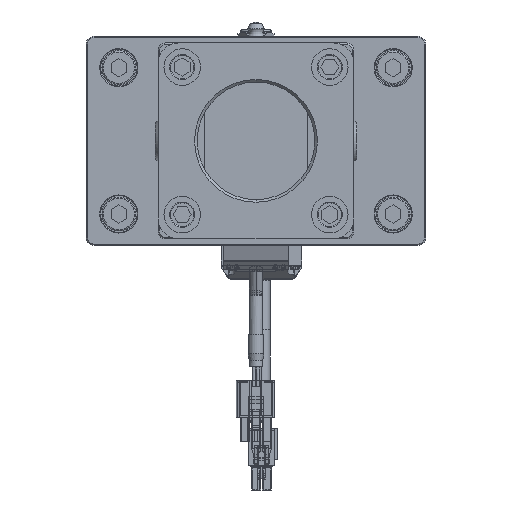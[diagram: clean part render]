
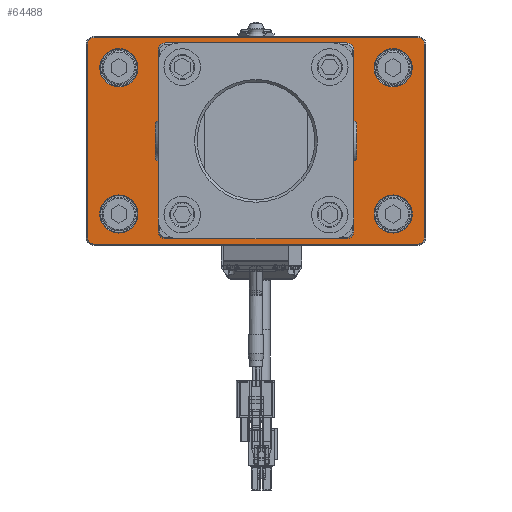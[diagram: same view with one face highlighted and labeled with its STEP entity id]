
A CAD part, front view. The second image highlights one B-rep face of the part: STEP entity #64488.
In plain terms, the highlighted planar face has unit normal (0, -1, 0) as drawn and (0, 1, 0) by its records, which use the part's own axes.
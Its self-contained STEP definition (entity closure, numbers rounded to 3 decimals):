
#62940=CARTESIAN_POINT('',(0.,7.,0.));
#62941=DIRECTION('',(0.,-1.,0.));
#62942=DIRECTION('',(1.,0.,0.));
#62943=AXIS2_PLACEMENT_3D('',#62940,#62941,#62942);
#62945=CARTESIAN_POINT('',(0.,7.,0.));
#62946=DIRECTION('',(0.,-1.,0.));
#62947=DIRECTION('',(-1.,0.,0.));
#62948=AXIS2_PLACEMENT_3D('',#62945,#62946,#62947);
#62950=CARTESIAN_POINT('',(-62.,7.,-37.));
#62951=DIRECTION('',(0.,1.,0.));
#62952=DIRECTION('',(0.,0.,-1.));
#62953=AXIS2_PLACEMENT_3D('',#62950,#62951,#62952);
#62955=DIRECTION('',(-1.,0.,0.));
#62956=VECTOR('',#62955,124.);
#62957=CARTESIAN_POINT('',(62.,7.,
-39.5));
#62958=LINE('',#62957,#62956);
#62959=CARTESIAN_POINT('',(62.,7.,-37.));
#62960=DIRECTION('',(0.,1.,0.));
#62961=DIRECTION('',(1.,0.,0.));
#62962=AXIS2_PLACEMENT_3D('',#62959,#62960,#62961);
#62964=DIRECTION('',(0.,0.,-1.));
#62965=VECTOR('',#62964,74.);
#62966=CARTESIAN_POINT('',(64.5,7.,37.));
#62967=LINE('',#62966,#62965);
#62968=CARTESIAN_POINT('',(62.,7.,37.));
#62969=DIRECTION('',(0.,1.,0.));
#62970=DIRECTION('',(0.,0.,1.));
#62971=AXIS2_PLACEMENT_3D('',#62968,#62969,#62970);
#62973=DIRECTION('',(1.,0.,0.));
#62974=VECTOR('',#62973,124.);
#62975=CARTESIAN_POINT('',(-62.,7.,
39.5));
#62976=LINE('',#62975,#62974);
#62977=CARTESIAN_POINT('',(-62.,7.,37.));
#62978=DIRECTION('',(0.,1.,0.));
#62979=DIRECTION('',(-1.,0.,0.));
#62980=AXIS2_PLACEMENT_3D('',#62977,#62978,#62979);
#62982=DIRECTION('',(0.,0.,1.));
#62983=VECTOR('',#62982,74.);
#62984=CARTESIAN_POINT('',(-64.5,7.,
-37.));
#62985=LINE('',#62984,#62983);
#62986=CARTESIAN_POINT('',(52.5,7.,28.));
#62987=DIRECTION('',(0.,-1.,0.));
#62988=DIRECTION('',(1.,0.,0.));
#62989=AXIS2_PLACEMENT_3D('',#62986,#62987,#62988);
#62991=CARTESIAN_POINT('',(52.5,7.,28.));
#62992=DIRECTION('',(0.,-1.,0.));
#62993=DIRECTION('',(-1.,0.,0.));
#62994=AXIS2_PLACEMENT_3D('',#62991,#62992,#62993);
#62996=CARTESIAN_POINT('',(-52.5,7.,28.));
#62997=DIRECTION('',(0.,-1.,0.));
#62998=DIRECTION('',(1.,0.,0.));
#62999=AXIS2_PLACEMENT_3D('',#62996,#62997,#62998);
#63001=CARTESIAN_POINT('',(-52.5,7.,28.));
#63002=DIRECTION('',(0.,-1.,0.));
#63003=DIRECTION('',(-1.,0.,0.));
#63004=AXIS2_PLACEMENT_3D('',#63001,#63002,#63003);
#63006=CARTESIAN_POINT('',(52.5,7.,-28.));
#63007=DIRECTION('',(0.,-1.,0.));
#63008=DIRECTION('',(1.,0.,0.));
#63009=AXIS2_PLACEMENT_3D('',#63006,#63007,#63008);
#63011=CARTESIAN_POINT('',(52.5,7.,-28.));
#63012=DIRECTION('',(0.,-1.,0.));
#63013=DIRECTION('',(-1.,0.,0.));
#63014=AXIS2_PLACEMENT_3D('',#63011,#63012,#63013);
#63016=CARTESIAN_POINT('',(-52.5,7.,-28.));
#63017=DIRECTION('',(0.,-1.,0.));
#63018=DIRECTION('',(1.,0.,0.));
#63019=AXIS2_PLACEMENT_3D('',#63016,#63017,#63018);
#63021=CARTESIAN_POINT('',(-52.5,7.,-28.));
#63022=DIRECTION('',(0.,-1.,0.));
#63023=DIRECTION('',(-1.,0.,0.));
#63024=AXIS2_PLACEMENT_3D('',#63021,#63022,#63023);
#63026=CARTESIAN_POINT('',(-28.25,7.,-28.25));
#63027=DIRECTION('',(0.,1.,0.));
#63028=DIRECTION('',(1.,0.,0.));
#63029=AXIS2_PLACEMENT_3D('',#63026,#63027,#63028);
#63031=CARTESIAN_POINT('',(-28.25,7.,-28.25));
#63032=DIRECTION('',(0.,1.,0.));
#63033=DIRECTION('',(-1.,0.,0.));
#63034=AXIS2_PLACEMENT_3D('',#63031,#63032,#63033);
#63036=CARTESIAN_POINT('',(-28.25,7.,28.25));
#63037=DIRECTION('',(0.,1.,0.));
#63038=DIRECTION('',(0.,0.,-1.));
#63039=AXIS2_PLACEMENT_3D('',#63036,#63037,#63038);
#63041=CARTESIAN_POINT('',(-28.25,7.,28.25));
#63042=DIRECTION('',(0.,1.,0.));
#63043=DIRECTION('',(0.,0.,1.));
#63044=AXIS2_PLACEMENT_3D('',#63041,#63042,#63043);
#63046=CARTESIAN_POINT('',(28.25,7.,28.25));
#63047=DIRECTION('',(0.,1.,0.));
#63048=DIRECTION('',(-1.,0.,0.));
#63049=AXIS2_PLACEMENT_3D('',#63046,#63047,#63048);
#63051=CARTESIAN_POINT('',(28.25,7.,28.25));
#63052=DIRECTION('',(0.,1.,0.));
#63053=DIRECTION('',(1.,0.,0.));
#63054=AXIS2_PLACEMENT_3D('',#63051,#63052,#63053);
#63056=CARTESIAN_POINT('',(28.25,7.,-28.25));
#63057=DIRECTION('',(0.,1.,0.));
#63058=DIRECTION('',(0.,0.,1.));
#63059=AXIS2_PLACEMENT_3D('',#63056,#63057,#63058);
#63061=CARTESIAN_POINT('',(28.25,7.,-28.25));
#63062=DIRECTION('',(0.,1.,0.));
#63063=DIRECTION('',(0.,0.,-1.));
#63064=AXIS2_PLACEMENT_3D('',#63061,#63062,#63063);
#63972=CARTESIAN_POINT('',(23.,7.,0.));
#63973=CARTESIAN_POINT('',(-23.,7.,0.));
#63974=VERTEX_POINT('',#63972);
#63975=VERTEX_POINT('',#63973);
#64020=CARTESIAN_POINT('',(-62.,7.,-39.5));
#64021=CARTESIAN_POINT('',(-64.5,7.,-37.));
#64022=VERTEX_POINT('',#64020);
#64023=VERTEX_POINT('',#64021);
#64028=CARTESIAN_POINT('',(-64.5,7.,
37.));
#64029=VERTEX_POINT('',#64028);
#64032=CARTESIAN_POINT('',(-62.,7.,39.5));
#64033=VERTEX_POINT('',#64032);
#64036=CARTESIAN_POINT('',(62.,7.,39.5));
#64037=VERTEX_POINT('',#64036);
#64040=CARTESIAN_POINT('',(64.5,7.,37.));
#64041=VERTEX_POINT('',#64040);
#64044=CARTESIAN_POINT('',(64.5,7.,
-37.));
#64045=VERTEX_POINT('',#64044);
#64048=CARTESIAN_POINT('',(62.,7.,-39.5));
#64049=VERTEX_POINT('',#64048);
#64068=CARTESIAN_POINT('',(59.8,7.,28.));
#64069=CARTESIAN_POINT('',(45.2,7.,28.));
#64070=VERTEX_POINT('',#64068);
#64071=VERTEX_POINT('',#64069);
#64092=CARTESIAN_POINT('',(-45.2,7.,28.));
#64093=CARTESIAN_POINT('',(-59.8,7.,28.));
#64094=VERTEX_POINT('',#64092);
#64095=VERTEX_POINT('',#64093);
#64108=CARTESIAN_POINT('',(59.8,7.,-28.));
#64109=CARTESIAN_POINT('',(45.2,7.,-28.));
#64110=VERTEX_POINT('',#64108);
#64111=VERTEX_POINT('',#64109);
#64116=CARTESIAN_POINT('',(-45.2,7.,-28.));
#64117=CARTESIAN_POINT('',(-59.8,7.,-28.));
#64118=VERTEX_POINT('',#64116);
#64119=VERTEX_POINT('',#64117);
#64216=CARTESIAN_POINT('',(-24.25,7.,-28.25));
#64217=CARTESIAN_POINT('',(-32.25,7.,-28.25));
#64218=VERTEX_POINT('',#64216);
#64219=VERTEX_POINT('',#64217);
#64224=CARTESIAN_POINT('',(-28.25,7.,24.25));
#64225=CARTESIAN_POINT('',(-28.25,7.,32.25));
#64226=VERTEX_POINT('',#64224);
#64227=VERTEX_POINT('',#64225);
#64232=CARTESIAN_POINT('',(24.25,7.,28.25));
#64233=CARTESIAN_POINT('',(32.25,7.,28.25));
#64234=VERTEX_POINT('',#64232);
#64235=VERTEX_POINT('',#64233);
#64240=CARTESIAN_POINT('',(28.25,7.,-24.25));
#64241=CARTESIAN_POINT('',(28.25,7.,-32.25));
#64242=VERTEX_POINT('',#64240);
#64243=VERTEX_POINT('',#64241);
#64412=CARTESIAN_POINT('',(0.,7.,0.));
#64413=DIRECTION('',(0.,1.,0.));
#64414=DIRECTION('',(1.,0.,0.));
#64415=AXIS2_PLACEMENT_3D('',#64412,#64413,#64414);
#64416=PLANE('',#64415);
#64418=ORIENTED_EDGE('',*,*,#64417,.F.);
#64420=ORIENTED_EDGE('',*,*,#64419,.F.);
#64422=ORIENTED_EDGE('',*,*,#64421,.F.);
#64424=ORIENTED_EDGE('',*,*,#64423,.F.);
#64426=ORIENTED_EDGE('',*,*,#64425,.F.);
#64428=ORIENTED_EDGE('',*,*,#64427,.F.);
#64430=ORIENTED_EDGE('',*,*,#64429,.F.);
#64432=ORIENTED_EDGE('',*,*,#64431,.F.);
#64433=EDGE_LOOP('',(#64418,#64420,#64422,#64424,#64426,#64428,#64430,#64432));
#64434=FACE_OUTER_BOUND('',#64433,.F.);
#64436=ORIENTED_EDGE('',*,*,#64435,.F.);
#64437=ORIENTED_EDGE('',*,*,#64402,.F.);
#64438=EDGE_LOOP('',(#64436,#64437));
#64439=FACE_BOUND('',#64438,.F.);
#64441=ORIENTED_EDGE('',*,*,#64440,.F.);
#64443=ORIENTED_EDGE('',*,*,#64442,.F.);
#64444=EDGE_LOOP('',(#64441,#64443));
#64445=FACE_BOUND('',#64444,.F.);
#64447=ORIENTED_EDGE('',*,*,#64446,.F.);
#64449=ORIENTED_EDGE('',*,*,#64448,.F.);
#64450=EDGE_LOOP('',(#64447,#64449));
#64451=FACE_BOUND('',#64450,.F.);
#64453=ORIENTED_EDGE('',*,*,#64452,.F.);
#64455=ORIENTED_EDGE('',*,*,#64454,.F.);
#64456=EDGE_LOOP('',(#64453,#64455));
#64457=FACE_BOUND('',#64456,.F.);
#64459=ORIENTED_EDGE('',*,*,#64458,.F.);
#64461=ORIENTED_EDGE('',*,*,#64460,.F.);
#64462=EDGE_LOOP('',(#64459,#64461));
#64463=FACE_BOUND('',#64462,.F.);
#64465=ORIENTED_EDGE('',*,*,#64464,.T.);
#64467=ORIENTED_EDGE('',*,*,#64466,.T.);
#64468=EDGE_LOOP('',(#64465,#64467));
#64469=FACE_BOUND('',#64468,.F.);
#64471=ORIENTED_EDGE('',*,*,#64470,.T.);
#64473=ORIENTED_EDGE('',*,*,#64472,.T.);
#64474=EDGE_LOOP('',(#64471,#64473));
#64475=FACE_BOUND('',#64474,.F.);
#64477=ORIENTED_EDGE('',*,*,#64476,.T.);
#64479=ORIENTED_EDGE('',*,*,#64478,.T.);
#64480=EDGE_LOOP('',(#64477,#64479));
#64481=FACE_BOUND('',#64480,.F.);
#64483=ORIENTED_EDGE('',*,*,#64482,.T.);
#64485=ORIENTED_EDGE('',*,*,#64484,.T.);
#64486=EDGE_LOOP('',(#64483,#64485));
#64487=FACE_BOUND('',#64486,.F.);
#64488=ADVANCED_FACE('',(#64434,#64439,#64445,#64451,#64457,#64463,#64469,
#64475,#64481,#64487),#64416,.T.);
#62944=CIRCLE('',#62943,23.);
#62949=CIRCLE('',#62948,23.);
#62954=CIRCLE('',#62953,2.5);
#62963=CIRCLE('',#62962,2.5);
#62972=CIRCLE('',#62971,2.5);
#62981=CIRCLE('',#62980,2.5);
#62990=CIRCLE('',#62989,7.3);
#62995=CIRCLE('',#62994,7.3);
#63000=CIRCLE('',#62999,7.3);
#63005=CIRCLE('',#63004,7.3);
#63010=CIRCLE('',#63009,7.3);
#63015=CIRCLE('',#63014,7.3);
#63020=CIRCLE('',#63019,7.3);
#63025=CIRCLE('',#63024,7.3);
#63030=CIRCLE('',#63029,4.);
#63035=CIRCLE('',#63034,4.);
#63040=CIRCLE('',#63039,4.);
#63045=CIRCLE('',#63044,4.);
#63050=CIRCLE('',#63049,4.);
#63055=CIRCLE('',#63054,4.);
#63060=CIRCLE('',#63059,4.);
#63065=CIRCLE('',#63064,4.);
#64402=EDGE_CURVE('',#63975,#63974,#62949,.T.);
#64417=EDGE_CURVE('',#64022,#64023,#62954,.T.);
#64419=EDGE_CURVE('',#64049,#64022,#62958,.T.);
#64421=EDGE_CURVE('',#64045,#64049,#62963,.T.);
#64423=EDGE_CURVE('',#64041,#64045,#62967,.T.);
#64425=EDGE_CURVE('',#64037,#64041,#62972,.T.);
#64427=EDGE_CURVE('',#64033,#64037,#62976,.T.);
#64429=EDGE_CURVE('',#64029,#64033,#62981,.T.);
#64431=EDGE_CURVE('',#64023,#64029,#62985,.T.);
#64435=EDGE_CURVE('',#63974,#63975,#62944,.T.);
#64440=EDGE_CURVE('',#64070,#64071,#62990,.T.);
#64442=EDGE_CURVE('',#64071,#64070,#62995,.T.);
#64446=EDGE_CURVE('',#64094,#64095,#63000,.T.);
#64448=EDGE_CURVE('',#64095,#64094,#63005,.T.);
#64452=EDGE_CURVE('',#64110,#64111,#63010,.T.);
#64454=EDGE_CURVE('',#64111,#64110,#63015,.T.);
#64458=EDGE_CURVE('',#64118,#64119,#63020,.T.);
#64460=EDGE_CURVE('',#64119,#64118,#63025,.T.);
#64464=EDGE_CURVE('',#64218,#64219,#63030,.T.);
#64466=EDGE_CURVE('',#64219,#64218,#63035,.T.);
#64470=EDGE_CURVE('',#64226,#64227,#63040,.T.);
#64472=EDGE_CURVE('',#64227,#64226,#63045,.T.);
#64476=EDGE_CURVE('',#64234,#64235,#63050,.T.);
#64478=EDGE_CURVE('',#64235,#64234,#63055,.T.);
#64482=EDGE_CURVE('',#64242,#64243,#63060,.T.);
#64484=EDGE_CURVE('',#64243,#64242,#63065,.T.);
